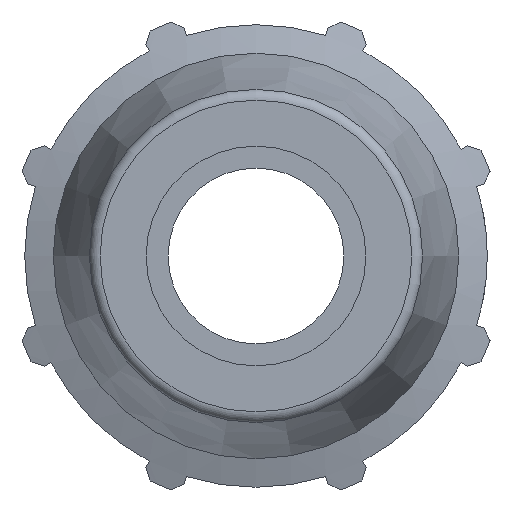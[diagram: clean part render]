
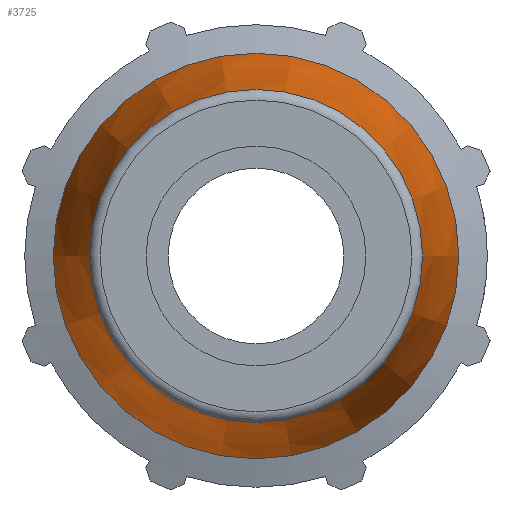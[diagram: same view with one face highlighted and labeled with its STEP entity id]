
A CAD part, left-side view. The second image highlights one B-rep face of the part: STEP entity #3725.
In plain terms, the highlighted conical face has half-angle 12 degrees and reference radius 17.736 mm.
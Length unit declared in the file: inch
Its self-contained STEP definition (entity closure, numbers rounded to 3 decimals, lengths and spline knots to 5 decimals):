
#306=FACE_OUTER_BOUND('',#501,.T.);
#501=EDGE_LOOP('',(#2644,#2645,#2646,#2647,#2648,#2649,#2650));
#756=CIRCLE('',#3979,0.63301);
#757=CIRCLE('',#3980,0.63301);
#761=CIRCLE('',#3984,0.63301);
#764=CIRCLE('',#3989,0.77052);
#765=CIRCLE('',#3990,0.77052);
#985=LINE('',#5679,#1250);
#1250=VECTOR('',#4568,0.69825);
#1534=VERTEX_POINT('',#5658);
#1535=VERTEX_POINT('',#5659);
#1536=VERTEX_POINT('',#5661);
#1541=VERTEX_POINT('',#5675);
#1542=VERTEX_POINT('',#5676);
#1964=EDGE_CURVE('',#1534,#1535,#756,.T.);
#1965=EDGE_CURVE('',#1535,#1536,#757,.T.);
#1969=EDGE_CURVE('',#1536,#1534,#761,.T.);
#1972=EDGE_CURVE('',#1541,#1542,#764,.T.);
#1973=EDGE_CURVE('',#1542,#1541,#765,.T.);
#1974=EDGE_CURVE('',#1542,#1535,#985,.T.);
#2644=ORIENTED_EDGE('',*,*,#1972,.F.);
#2645=ORIENTED_EDGE('',*,*,#1973,.F.);
#2646=ORIENTED_EDGE('',*,*,#1974,.T.);
#2647=ORIENTED_EDGE('',*,*,#1964,.F.);
#2648=ORIENTED_EDGE('',*,*,#1969,.F.);
#2649=ORIENTED_EDGE('',*,*,#1965,.F.);
#2650=ORIENTED_EDGE('',*,*,#1974,.F.);
#3458=CONICAL_SURFACE('',#3988,0.69825,0.209);
#3725=ADVANCED_FACE('',(#306),#3458,.T.);
#3979=AXIS2_PLACEMENT_3D('',#5660,#4544,#4545);
#3980=AXIS2_PLACEMENT_3D('',#5662,#4546,#4547);
#3984=AXIS2_PLACEMENT_3D('',#5668,#4554,#4555);
#3988=AXIS2_PLACEMENT_3D('',#5674,#4562,#4563);
#3989=AXIS2_PLACEMENT_3D('',#5677,#4564,#4565);
#3990=AXIS2_PLACEMENT_3D('',#5678,#4566,#4567);
#4544=DIRECTION('center_axis',(-1.,0.,0.));
#4545=DIRECTION('ref_axis',(0.,-1.,0.));
#4546=DIRECTION('center_axis',(-1.,0.,0.));
#4547=DIRECTION('ref_axis',(0.,-1.,0.));
#4554=DIRECTION('center_axis',(-1.,0.,0.));
#4555=DIRECTION('ref_axis',(0.,-1.,0.));
#4562=DIRECTION('center_axis',(1.,0.,0.));
#4563=DIRECTION('ref_axis',(0.,1.,0.));
#4564=DIRECTION('center_axis',(1.,0.,0.));
#4565=DIRECTION('ref_axis',(0.,0.,-1.));
#4566=DIRECTION('center_axis',(1.,0.,0.));
#4567=DIRECTION('ref_axis',(0.,0.,-1.));
#4568=DIRECTION('',(-0.978,0.208,0.));
#5658=CARTESIAN_POINT('',(-2.34694,0.63301,0.));
#5659=CARTESIAN_POINT('',(-2.34694,-0.63301,0.));
#5660=CARTESIAN_POINT('Origin',(-2.34694,0.,0.));
#5661=CARTESIAN_POINT('',(-2.34694,0.,0.63301));
#5662=CARTESIAN_POINT('Origin',(-2.34694,0.,0.));
#5668=CARTESIAN_POINT('Origin',(-2.34694,0.,0.));
#5674=CARTESIAN_POINT('Origin',(-2.04,0.,0.));
#5675=CARTESIAN_POINT('',(-1.7,0.77052,0.));
#5676=CARTESIAN_POINT('',(-1.7,-0.77052,0.));
#5677=CARTESIAN_POINT('Origin',(-1.7,0.,0.));
#5678=CARTESIAN_POINT('Origin',(-1.7,0.,0.));
#5679=CARTESIAN_POINT('',(-2.04,-0.69825,0.));
